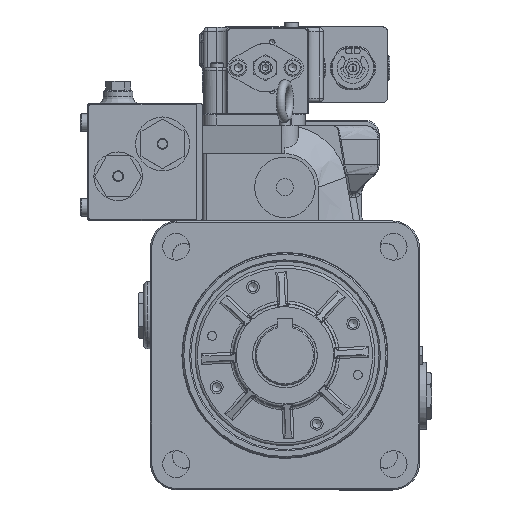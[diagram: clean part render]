
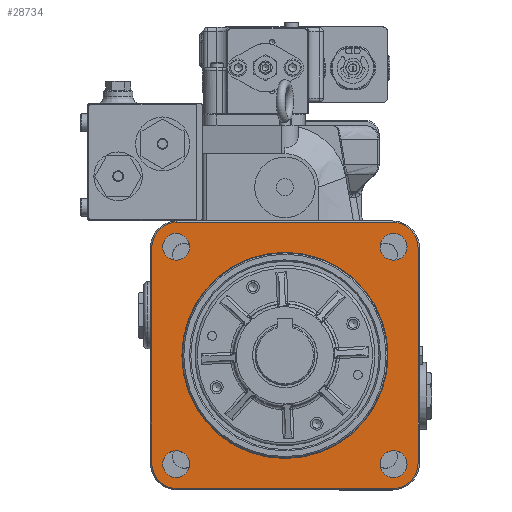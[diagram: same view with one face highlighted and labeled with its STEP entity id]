
A CAD part, top view. The second image highlights one B-rep face of the part: STEP entity #28734.
In plain terms, the highlighted planar face has unit normal (0, 0, 1).
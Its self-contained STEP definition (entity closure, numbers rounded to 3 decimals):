
#21953=CARTESIAN_POINT('',(90.8,-80.8,23.));
#21954=VERTEX_POINT('',#21953);
#21955=CARTESIAN_POINT('',(80.8,-80.8,23.));
#21956=DIRECTION('',(0.0,0.0,-1.0));
#21957=DIRECTION('',(-1.0,0.0,0.0));
#21958=AXIS2_PLACEMENT_3D('',#21955,#21956,#21957);
#21959=CIRCLE('',#21958,10.0);
#21960=EDGE_CURVE('',#21954,#21954,#21959,.T.);
#21981=CARTESIAN_POINT('',(-70.8,80.8,23.));
#21982=VERTEX_POINT('',#21981);
#21983=CARTESIAN_POINT('',(-80.8,80.8,23.));
#21984=DIRECTION('',(0.0,0.0,-1.0));
#21985=DIRECTION('',(-1.0,0.0,0.0));
#21986=AXIS2_PLACEMENT_3D('',#21983,#21984,#21985);
#21987=CIRCLE('',#21986,10.0);
#21988=EDGE_CURVE('',#21982,#21982,#21987,.T.);
#22009=CARTESIAN_POINT('',(90.8,80.8,23.));
#22010=VERTEX_POINT('',#22009);
#22011=CARTESIAN_POINT('',(80.8,80.8,23.));
#22012=DIRECTION('',(0.0,0.0,-1.0));
#22013=DIRECTION('',(-1.0,0.0,0.0));
#22014=AXIS2_PLACEMENT_3D('',#22011,#22012,#22013);
#22015=CIRCLE('',#22014,10.0);
#22016=EDGE_CURVE('',#22010,#22010,#22015,.T.);
#22037=CARTESIAN_POINT('',(-70.8,-80.8,23.));
#22038=VERTEX_POINT('',#22037);
#22039=CARTESIAN_POINT('',(-80.8,-80.8,23.));
#22040=DIRECTION('',(0.0,0.0,-1.0));
#22041=DIRECTION('',(-1.0,0.0,0.0));
#22042=AXIS2_PLACEMENT_3D('',#22039,#22040,#22041);
#22043=CIRCLE('',#22042,10.0);
#22044=EDGE_CURVE('',#22038,#22038,#22043,.T.);
#28403=CARTESIAN_POINT('',(-80.,99.,23.));
#28404=VERTEX_POINT('',#28403);
#28411=CARTESIAN_POINT('',(80.0,99.,23.));
#28412=VERTEX_POINT('',#28411);
#28413=CARTESIAN_POINT('',(-80.,99.,23.));
#28414=DIRECTION('',(1.0,0.0,0.0));
#28415=VECTOR('',#28414,160.0);
#28416=LINE('',#28413,#28415);
#28417=EDGE_CURVE('',#28404,#28412,#28416,.T.);
#28436=CARTESIAN_POINT('',(-99.,80.,23.));
#28437=VERTEX_POINT('',#28436);
#28444=CARTESIAN_POINT('',(-80.,80.,23.));
#28445=DIRECTION('',(0.0,0.0,-1.0));
#28446=DIRECTION('',(0.0,1.0,0.0));
#28447=AXIS2_PLACEMENT_3D('',#28444,#28445,#28446);
#28448=CIRCLE('',#28447,19.0);
#28449=EDGE_CURVE('',#28437,#28404,#28448,.T.);
#28467=CARTESIAN_POINT('',(99.,80.,23.));
#28468=VERTEX_POINT('',#28467);
#28485=CARTESIAN_POINT('',(80.,80.,23.));
#28486=DIRECTION('',(0.0,0.0,-1.0));
#28487=DIRECTION('',(1.0,0.0,0.0));
#28488=AXIS2_PLACEMENT_3D('',#28485,#28486,#28487);
#28489=CIRCLE('',#28488,19.0);
#28490=EDGE_CURVE('',#28412,#28468,#28489,.T.);
#28502=CARTESIAN_POINT('',(-99.0,-80.,23.));
#28503=VERTEX_POINT('',#28502);
#28510=CARTESIAN_POINT('',(-99.0,-80.,23.));
#28511=DIRECTION('',(0.0,1.0,0.0));
#28512=VECTOR('',#28511,160.0);
#28513=LINE('',#28510,#28512);
#28514=EDGE_CURVE('',#28503,#28437,#28513,.T.);
#28531=CARTESIAN_POINT('',(99.,-80.,23.));
#28532=VERTEX_POINT('',#28531);
#28548=CARTESIAN_POINT('',(99.0,80.0,23.));
#28549=DIRECTION('',(0.0,-1.0,0.0));
#28550=VECTOR('',#28549,160.0);
#28551=LINE('',#28548,#28550);
#28552=EDGE_CURVE('',#28468,#28532,#28551,.T.);
#28564=CARTESIAN_POINT('',(-80.0,-99.,23.));
#28565=VERTEX_POINT('',#28564);
#28572=CARTESIAN_POINT('',(-80.,-80.,23.));
#28573=DIRECTION('',(0.0,0.0,-1.0));
#28574=DIRECTION('',(-1.0,0.0,0.0));
#28575=AXIS2_PLACEMENT_3D('',#28572,#28573,#28574);
#28576=CIRCLE('',#28575,19.);
#28577=EDGE_CURVE('',#28565,#28503,#28576,.T.);
#28595=CARTESIAN_POINT('',(80.,-99.0,23.));
#28596=VERTEX_POINT('',#28595);
#28613=CARTESIAN_POINT('',(80.,-80.0,23.));
#28614=DIRECTION('',(0.0,0.0,-1.0));
#28615=DIRECTION('',(0.0,-1.0,0.0));
#28616=AXIS2_PLACEMENT_3D('',#28613,#28614,#28615);
#28617=CIRCLE('',#28616,19.);
#28618=EDGE_CURVE('',#28532,#28596,#28617,.T.);
#28636=CARTESIAN_POINT('',(80.,-99.,23.));
#28637=DIRECTION('',(-1.0,0.0,0.0));
#28638=VECTOR('',#28637,160.);
#28639=LINE('',#28636,#28638);
#28640=EDGE_CURVE('',#28596,#28565,#28639,.T.);
#28696=CARTESIAN_POINT('',(0.,0.,23.));
#28697=DIRECTION('',(0.0,0.0,1.0));
#28698=DIRECTION('',(1.0,0.0,0.0));
#28699=AXIS2_PLACEMENT_3D('',#28696,#28697,#28698);
#28700=PLANE('',#28699);
#28701=ORIENTED_EDGE('',*,*,#28417,.F.);
#28702=ORIENTED_EDGE('',*,*,#28449,.F.);
#28703=ORIENTED_EDGE('',*,*,#28514,.F.);
#28704=ORIENTED_EDGE('',*,*,#28577,.F.);
#28705=ORIENTED_EDGE('',*,*,#28640,.F.);
#28706=ORIENTED_EDGE('',*,*,#28618,.F.);
#28707=ORIENTED_EDGE('',*,*,#28552,.F.);
#28708=ORIENTED_EDGE('',*,*,#28490,.F.);
#28709=EDGE_LOOP('',(#28701,#28702,#28703,#28704,#28705,#28706,#28707,#28708));
#28710=FACE_OUTER_BOUND('',#28709,.T.);
#28711=ORIENTED_EDGE('',*,*,#21960,.T.);
#28712=EDGE_LOOP('',(#28711));
#28713=FACE_BOUND('',#28712,.T.);
#28714=ORIENTED_EDGE('',*,*,#21988,.T.);
#28715=EDGE_LOOP('',(#28714));
#28716=FACE_BOUND('',#28715,.T.);
#28717=ORIENTED_EDGE('',*,*,#22016,.T.);
#28718=EDGE_LOOP('',(#28717));
#28719=FACE_BOUND('',#28718,.T.);
#28720=ORIENTED_EDGE('',*,*,#22044,.T.);
#28721=EDGE_LOOP('',(#28720));
#28722=FACE_BOUND('',#28721,.T.);
#28723=CARTESIAN_POINT('',(76.6,0.,23.));
#28724=VERTEX_POINT('',#28723);
#28725=CARTESIAN_POINT('',(0.,0.,23.));
#28726=DIRECTION('',(0.0,0.0,1.0));
#28727=DIRECTION('',(-1.0,0.0,0.0));
#28728=AXIS2_PLACEMENT_3D('',#28725,#28726,#28727);
#28729=CIRCLE('',#28728,76.6);
#28730=EDGE_CURVE('',#28724,#28724,#28729,.T.);
#28731=ORIENTED_EDGE('',*,*,#28730,.F.);
#28732=EDGE_LOOP('',(#28731));
#28733=FACE_BOUND('',#28732,.T.);
#28734=ADVANCED_FACE('',(#28710,#28713,#28716,#28719,#28722,#28733),#28700,.T.);
